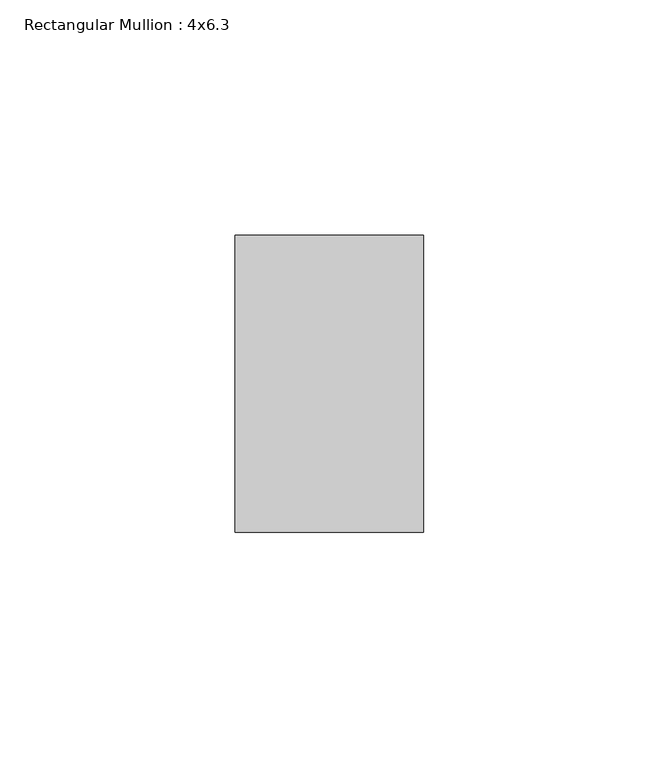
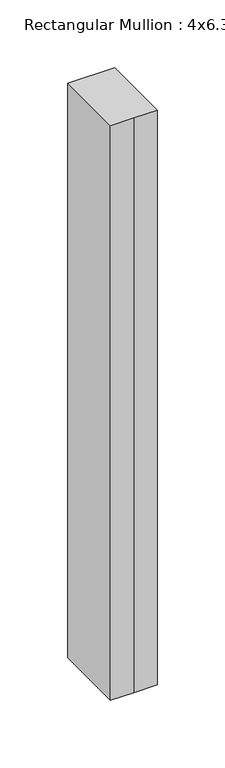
"""IFC4 building model written with IfcOpenShell, lengths in millimetres: member geometry, Rectangular Mullion : 4x6.3."""

import ifcopenshell
import ifcopenshell.guid

model = None  # the IFC model being written
_history = None  # IfcOwnerHistory: only IFC2X3 demands one
_inside = {}  # id of a spatial element -> (the spatial element, [elements in it])
_under = {}  # id of a project, library or spatial element -> (it, [spatial elements below it])
_declared = {}  # id of a project -> (the project, [libraries it declares])
_typed = {}  # id of a type object -> (the type object, [elements of that type])
_made_of = {}  # id of a material, layer set ... -> (it, [elements and type objects made of it])


def new_model(schema):
    """Start an empty IFC model of exactly this schema.

    Asked for "IFC4X3", IfcOpenShell would pick the latest addendum, in which some entities
    have other attributes; the version numbers below select the first issue.
    IFC2X3 requires an IfcOwnerHistory on every rooted entity: one is made here for all.
    """
    global model, _history
    if schema == "IFC4X3":
        model = ifcopenshell.file(schema_version=(4, 3, 0, 0))
    else:
        model = ifcopenshell.file(schema=schema)
    _inside.clear()
    _under.clear()
    _declared.clear()
    _typed.clear()
    _made_of.clear()
    _history = None
    if model.schema == "IFC2X3":
        org = make("IfcOrganization", Name="unknown")
        user = make(
            "IfcPersonAndOrganization",
            ThePerson=make("IfcPerson", FamilyName="unknown"),
            TheOrganization=org,
        )
        app = make(
            "IfcApplication",
            ApplicationDeveloper=org,
            Version="unknown",
            ApplicationFullName="unknown",
            ApplicationIdentifier="unknown",
        )
        _history = make(
            "IfcOwnerHistory",
            OwningUser=user,
            OwningApplication=app,
            ChangeAction="ADDED",
            CreationDate=0,
        )
    return model


def make(cls, **values):
    """One entity of the class cls with the attributes given. An attribute that is None is left unset."""
    return model.create_entity(
        cls, **{name: value for name, value in values.items() if value is not None}
    )


def rooted(cls, **values):
    """An entity with a GlobalId (a new one), such as an element, a storey or a relation."""
    return make(cls, GlobalId=ifcopenshell.guid.new(), OwnerHistory=_history, **values)


def si_unit(unit_type, name, prefix=None):
    """IfcSIUnit, for example si_unit("LENGTHUNIT", "METRE", prefix="MILLI")."""
    return make("IfcSIUnit", UnitType=unit_type, Prefix=prefix, Name=name)


def assignment(units):
    """IfcUnitAssignment: the units of a project."""
    return None if units is None else make("IfcUnitAssignment", Units=units)


def point(xyz):
    """IfcCartesianPoint."""
    return None if xyz is None else make("IfcCartesianPoint", Coordinates=xyz)


def direction(xyz):
    """IfcDirection."""
    return None if xyz is None else make("IfcDirection", DirectionRatios=xyz)


def frame(location, z_axis=None, x_axis=None):
    """IfcAxis2Placement3D, a coordinate frame: its origin and axes. An axis left out is left unset."""
    return make(
        "IfcAxis2Placement3D",
        Location=point(location),
        Axis=direction(z_axis),
        RefDirection=direction(x_axis),
    )


def origin():
    """The frame at (0, 0, 0) with its axes left unset."""
    return frame((0.0, 0.0, 0.0))


def place(relative_to, where):
    """IfcLocalPlacement: puts the frame where relative to a parent placement (None: the world)."""
    return make(
        "IfcLocalPlacement", PlacementRelTo=relative_to, RelativePlacement=where
    )


def context(
    kind, dimensions, precision=None, world=None, true_north=None, identifier=None
):
    """IfcGeometricRepresentationContext, for example the 3D "Model" context."""
    return make(
        "IfcGeometricRepresentationContext",
        ContextIdentifier=identifier,
        ContextType=kind,
        CoordinateSpaceDimension=dimensions,
        Precision=precision,
        WorldCoordinateSystem=world,
        TrueNorth=true_north,
    )


def project(units=None, contexts=None):
    """IfcProject with its units and contexts."""
    return rooted(
        "IfcProject",
        Name="project",
        RepresentationContexts=contexts,
        UnitsInContext=assignment(units),
    )


def spatial(cls, under=None, at=None, **own):
    """A site, building, storey or space (cls), placed at a placement, below another one or the project."""
    s = rooted(cls, ObjectPlacement=at, **own)
    if under is not None:
        _under.setdefault(under.id(), (under, []))[1].append(s)
    return s


def polyline(points):
    """IfcPolyline through the points."""
    return make("IfcPolyline", Points=[point(p) for p in points])


def outline(outer, holes=None, kind="AREA"):
    """IfcArbitraryClosedProfileDef: a profile drawn as a closed curve; with holes, ...WithVoids."""
    if holes is None:
        return make("IfcArbitraryClosedProfileDef", ProfileType=kind, OuterCurve=outer)
    return make(
        "IfcArbitraryProfileDefWithVoids",
        ProfileType=kind,
        OuterCurve=outer,
        InnerCurves=holes,
    )


def extrude(swept, where, along, depth):
    """IfcExtrudedAreaSolid: the profile swept, set in the frame where, extruded along a direction by depth."""
    return make(
        "IfcExtrudedAreaSolid",
        SweptArea=swept,
        Position=where,
        ExtrudedDirection=direction(along),
        Depth=depth,
    )


def shape(context_of_items, identifier, shape_type, items):
    """IfcShapeRepresentation: the items that make up one representation, for example the "Body"."""
    return make(
        "IfcShapeRepresentation",
        ContextOfItems=context_of_items,
        RepresentationIdentifier=identifier,
        RepresentationType=shape_type,
        Items=items,
    )


def source(mapping_origin, context_of_items, identifier, shape_type, items):
    """IfcRepresentationMap: a shape defined once, which mapped items show again and again."""
    return make(
        "IfcRepresentationMap",
        MappingOrigin=mapping_origin,
        MappedRepresentation=shape(context_of_items, identifier, shape_type, items),
    )


def transform(
    local_origin,
    x_axis=None,
    y_axis=None,
    z_axis=None,
    scale=None,
    scale2=None,
    scale3=None,
    uniform=True,
):
    """IfcCartesianTransformationOperator3D, or its non-uniform kind. x_axis, y_axis, z_axis: its Axis1, 2, 3."""
    if uniform:
        return make(
            "IfcCartesianTransformationOperator3D",
            Axis1=direction(x_axis),
            Axis2=direction(y_axis),
            LocalOrigin=point(local_origin),
            Scale=scale,
            Axis3=direction(z_axis),
        )
    return make(
        "IfcCartesianTransformationOperator3DnonUniform",
        Axis1=direction(x_axis),
        Axis2=direction(y_axis),
        LocalOrigin=point(local_origin),
        Scale=scale,
        Axis3=direction(z_axis),
        Scale2=scale2,
        Scale3=scale3,
    )


def mapped(mapping_source, mapping_target):
    """IfcMappedItem: shows the shape of a source again, moved by a transform."""
    return make(
        "IfcMappedItem", MappingSource=mapping_source, MappingTarget=mapping_target
    )


def made_of(thing, what):
    """Note that an element or type object is made of a material, layer set ...; save() writes the relation."""
    if what is not None:
        _made_of.setdefault(what.id(), (what, []))[1].append(thing)
    return thing


def element(
    cls,
    number,
    at=None,
    inside=None,
    cuts=None,
    type_object=None,
    material=None,
    context=None,
    identifier="Body",
    shape_type=None,
    held_by="IfcProductDefinitionShape",
    body=None,
    shapes=None,
    **own,
):
    """One element of the class cls, such as IfcWall. Its Tag is "e" and its number.

    at: its placement. inside: the storey or other place that contains it. cuts: it is an
    opening in that element (IfcRelVoidsElement). A single representation is given by context,
    identifier, shape_type and body (its items); several are given by shapes. held_by: the class
    of the entity that holds the representations. save() writes the other relations.
    """
    e = rooted(cls, Tag="e%d" % number, ObjectPlacement=at, **own)
    if body is not None:
        shapes = [shape(context, identifier, shape_type, body)]
    if shapes is not None:
        e.Representation = make(held_by, Representations=shapes)
    if inside is not None:
        _inside.setdefault(inside.id(), (inside, []))[1].append(e)
    if cuts is not None:
        rooted(
            "IfcRelVoidsElement", RelatingBuildingElement=cuts, RelatedOpeningElement=e
        )
    if type_object is not None:
        _typed.setdefault(type_object.id(), (type_object, []))[1].append(e)
    return made_of(e, material)


def aggregate(whole, parts):
    """IfcRelAggregates: a whole, such as a stair, and the parts it consists of."""
    return rooted("IfcRelAggregates", RelatingObject=whole, RelatedObjects=parts)


def save(model, path):
    """Write the relations noted so far, then the file.

    IfcRelAggregates (storeys below a building ...), IfcRelContainedInSpatialStructure (elements
    in a storey), IfcRelDefinesByType, IfcRelAssociatesMaterial and IfcRelDeclares: one each for
    every whole, place, type object, material and project.
    """
    for whole, parts in _under.values():
        aggregate(whole, parts)
    for where, things in _inside.values():
        rooted(
            "IfcRelContainedInSpatialStructure",
            RelatedElements=things,
            RelatingStructure=where,
        )
    for kind, things in _typed.values():
        rooted("IfcRelDefinesByType", RelatedObjects=things, RelatingType=kind)
    for what, things in _made_of.values():
        rooted("IfcRelAssociatesMaterial", RelatedObjects=things, RelatingMaterial=what)
    for by, libraries in _declared.values():
        rooted("IfcRelDeclares", RelatingContext=by, RelatedDefinitions=libraries)
    model.write(path)


def rectangular_mullion_4x6_3_bb9983b2(model_context):
    return source(origin(), model_context, "Body", "SweptSolid", [
        extrude(outline(polyline([(-20.0, 20.0), (-20.0, 83.0), (20.0, 83.0), (20.0, 20.0), (0.0, 20.0), (-20.0, 20.0)])), frame((0.0, 0.0, -518.0716592), z_axis=(0.0, 0.0, 1.0), x_axis=(1.0, 0.0, 0.0)), (0.0, 0.0, 1.0), 518.0716592),
    ])


if __name__ == "__main__":
    model = new_model("IFC4")
    model_context = context("Model", 3, world=origin())
    ifc_project = project(units=[si_unit("LENGTHUNIT", "METRE", prefix="MILLI")], contexts=[model_context])
    site = spatial("IfcSite", under=ifc_project)
    building = spatial("IfcBuilding", under=site)
    placement = place(None, origin())
    rectangular_mullion_4x6_3_shape = rectangular_mullion_4x6_3_bb9983b2(model_context)
    element("IfcMember", 1, ObjectType="Rectangular Mullion : 4x6.3", at=placement, inside=building, context=model_context, shape_type="MappedRepresentation", body=[
        mapped(rectangular_mullion_4x6_3_shape, transform((0.0, 0.0, 0.0), x_axis=(1.0, 0.0, 0.0), y_axis=(0.0, 1.0, 0.0), z_axis=(0.0, 0.0, 1.0))),
    ])
    save(model, "model.ifc")
